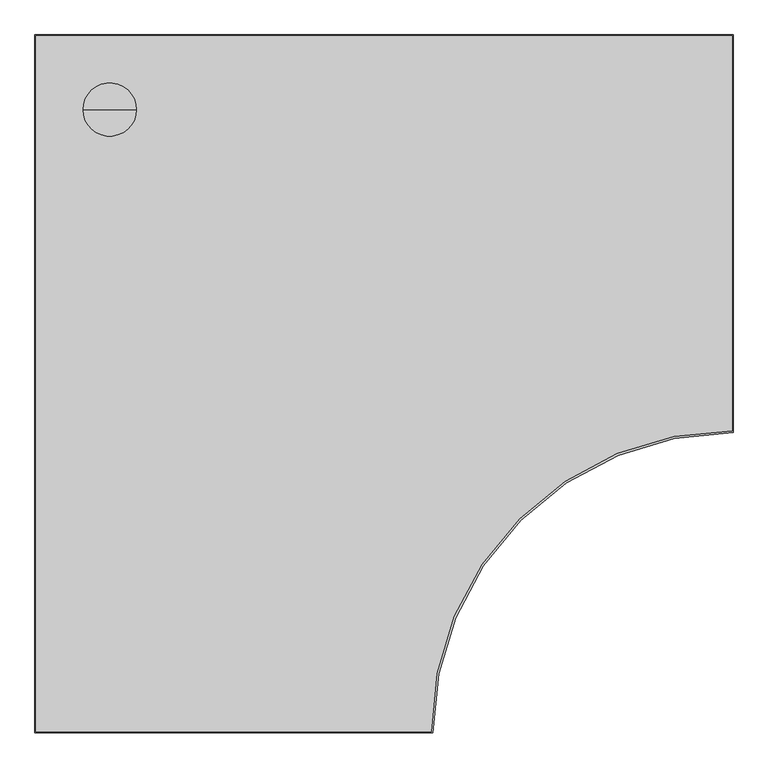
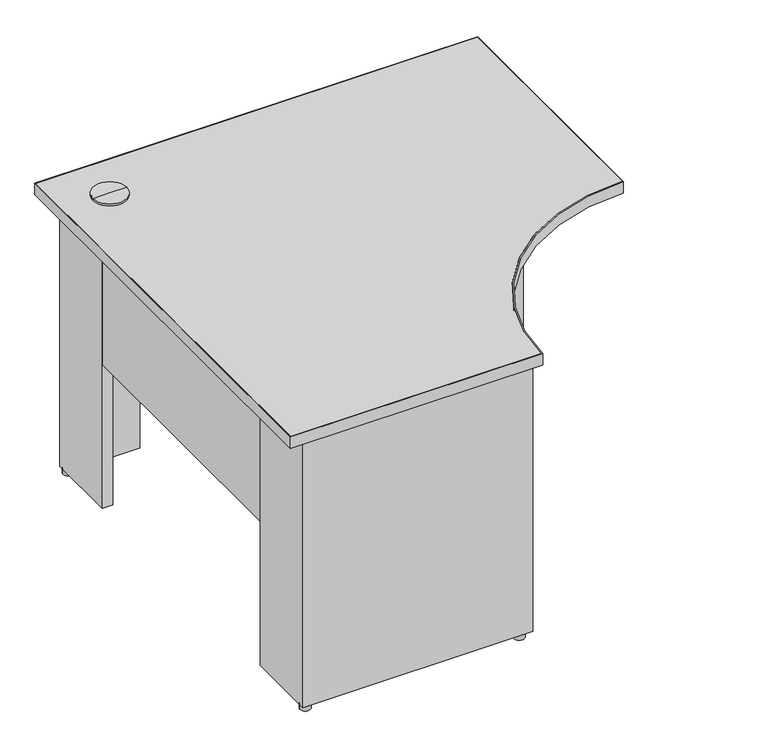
"""IFC4 building model written with IfcOpenShell, lengths in millimetres: furniture geometry, Steelcase - Kick Freestanding - Desk - Curve Corner - Partial Height Modesty Panel : 24D x 42W - Left Full End Panel/Right Clear Access Support - LPL."""

from ifc_helpers import new_model, si_unit, point, frame, frame_2d, origin, origin_with_axes, place, context, project, spatial, polyline, circle_curve, trimmed, segment, composite_curve, outline, extrude, source, transform, mapped, element, save
from ifc_brep_helpers import plane_surface, cylinder_surface, advanced_brep


def furniture_638c623a(model_context):
    return source(origin(), model_context, "Body", "SolidModel", [
        extrude(outline(composite_curve([segment(trimmed(circle_curve(frame_2d((566.7971133, -1039.8759893)), 12.7), [point((554.0971133, -1039.8759893))], [point((579.4971133, -1039.8759893))], False, "CARTESIAN"), True, "CONTINUOUS"), segment(trimmed(circle_curve(frame_2d((566.7971133, -1039.8759893)), 12.7), [point((579.4971133, -1039.8759893))], [point((554.0971133, -1039.8759893))], False, "CARTESIAN"), True, "CONTINUOUS")], self_intersect=False)), origin_with_axes(), (0.0, 0.0, 1.0), 12.446),
        extrude(outline(polyline([(874.0393822, -63.5), (874.0393822, -38.1), (1051.8393579, -38.1), (1051.8393579, -215.8999939), (1025.9313463, -215.8999939), (1025.9313463, -63.5), (874.0393822, -63.5)])), frame((0.0, 0.0, 12.446), z_axis=(0.0, 0.0, 1.0), x_axis=(1.0, 0.0, 0.0)), (0.0, 0.0, 1.0), 682.498),
        extrude(outline(polyline([(215.8999939, -63.5), (63.5, -63.5), (63.5, -215.8999939), (38.1, -215.8999939), (38.1, -38.1), (215.8999939, -38.1), (215.8999939, -63.5)])), frame((0.0, 0.0, 12.446), z_axis=(0.0, 0.0, 1.0), x_axis=(1.0, 0.0, 0.0)), (0.0, 0.0, 1.0), 682.498),
        extrude(outline(polyline([(63.5, -875.0300194), (63.5, -1027.4300194), (161.3662, -1027.4300194), (161.3662, -1047.0895822), (261.0866, -1047.0895822), (261.0866, -1027.4300194), (369.824, -1027.4300194), (369.824, -1047.0895822), (469.5444, -1047.0895822), (469.5444, -1027.4300194), (592.582, -1027.4300194), (592.582, -1052.8299952), (38.1, -1052.8299952), (38.1, -875.0300194), (63.5, -875.0300194)])), frame((0.0, 0.0, 12.446), z_axis=(0.0, 0.0, 1.0), x_axis=(1.0, 0.0, 0.0)), (0.0, 0.0, 1.0), 682.498),
        advanced_brep(
        [(114.3, -114.3, 728.98), (154.94, -114.3, 728.98), (73.66, -114.3, 728.98), (76.1699693, -114.3, 694.944), (152.4300307, -114.3, 694.944), (114.3, -114.3, 694.944), (76.1699693, -114.3, 723.9), (152.4300307, -114.3, 723.9), (73.66, -114.3, 723.9), (154.94, -114.3, 723.9)],
        [
            (0, 1),
            (1, 2, circle_curve(frame((114.3, -114.3, 728.98), z_axis=(0.0, 0.0, 1.0), x_axis=(1.0, 0.0, 0.0)), 40.64)),
            (2, 0),
            (2, 1, circle_curve(frame((114.3, -114.3, 728.98), z_axis=(0.0, 0.0, 1.0), x_axis=(1.0, 0.0, 0.0)), 40.64)),
            (3, 4, circle_curve(frame((114.3, -114.3, 694.944), z_axis=(0.0, 0.0, -1.0), x_axis=(1.0, 0.0, 0.0)), 38.1300307)),
            (4, 5),
            (5, 3),
            (4, 3, circle_curve(frame((114.3, -114.3, 694.944), z_axis=(0.0, 0.0, -1.0), x_axis=(1.0, 0.0, 0.0)), 38.1300307)),
            (6, 7, circle_curve(frame((114.3, -114.3, 723.9), z_axis=(0.0, 0.0, -1.0), x_axis=(1.0, 0.0, 0.0)), 38.1300307)),
            (7, 4),
            (3, 6),
            (7, 6, circle_curve(frame((114.3, -114.3, 723.9), z_axis=(0.0, 0.0, -1.0), x_axis=(1.0, 0.0, 0.0)), 38.1300307)),
            (8, 9, circle_curve(frame((114.3, -114.3, 723.9), z_axis=(0.0, 0.0, -1.0), x_axis=(1.0, 0.0, 0.0)), 40.64)),
            (9, 7),
            (6, 8),
            (9, 8, circle_curve(frame((114.3, -114.3, 723.9), z_axis=(0.0, 0.0, -1.0), x_axis=(1.0, 0.0, 0.0)), 40.64)),
            (1, 9),
            (8, 2),
        ],
        [
            plane_surface(frame((114.3, -114.3, 728.98), z_axis=(0.0, 0.0, 1.0), x_axis=(1.0, 0.0, 0.0))),
            plane_surface(frame((114.3, -114.3, 694.944), z_axis=(0.0, 0.0, -1.0), x_axis=(1.0, 0.0, 0.0))),
            cylinder_surface(frame((114.3, -114.3, 728.98), z_axis=(0.0, 0.0, 1.0), x_axis=(1.0, 0.0, 0.0)), 38.1300307),
            plane_surface(frame((114.3, -114.3, 723.9), z_axis=(0.0, 0.0, -1.0), x_axis=(1.0, 0.0, 0.0))),
            cylinder_surface(frame((114.3, -114.3, 728.98), z_axis=(0.0, 0.0, 1.0), x_axis=(1.0, 0.0, 0.0)), 40.64),
        ],
        [
            (0, [[1, 2, 3]]),
            (0, [[-3, 4, -1]]),
            (1, [[5, 6, 7]]),
            (1, [[8, -7, -6]]),
            (2, [[9, 10, -5, 11]]),
            (2, [[12, -11, -8, -10]]),
            (3, [[13, 14, -9, 15]]),
            (3, [[16, -15, -12, -14]]),
            (4, [[-2, 17, -13, 18]]),
            (4, [[-4, -18, -16, -17]]),
        ],
    ),
        extrude(outline(composite_curve([segment(trimmed(circle_curve(frame_2d((50.8, -50.8)), 12.7), [point((38.1, -50.8))], [point((63.5, -50.8))], False, "CARTESIAN"), True, "CONTINUOUS"), segment(trimmed(circle_curve(frame_2d((50.8, -50.8)), 12.7), [point((63.5, -50.8))], [point((38.1, -50.8))], False, "CARTESIAN"), True, "CONTINUOUS")], self_intersect=False)), origin_with_axes(), (0.0, 0.0, 1.0), 12.446),
        extrude(outline(composite_curve([segment(trimmed(circle_curve(frame_2d((50.8, -1040.1300073)), 12.7484998), [point((38.0515002, -1040.1300073))], [point((63.5484998, -1040.1300073))], False, "CARTESIAN"), True, "CONTINUOUS"), segment(trimmed(circle_curve(frame_2d((50.8, -1040.1300073)), 12.7484998), [point((63.5484998, -1040.1300073))], [point((38.0515002, -1040.1300073))], False, "CARTESIAN"), True, "CONTINUOUS")], self_intersect=False)), origin_with_axes(), (0.0, 0.0, 1.0), 12.446),
        extrude(outline(composite_curve([segment(trimmed(circle_curve(frame_2d((1038.8853521, -50.8)), 12.7), [point((1026.1853521, -50.8))], [point((1051.5853521, -50.8))], False, "CARTESIAN"), True, "CONTINUOUS"), segment(trimmed(circle_curve(frame_2d((1038.8853521, -50.8)), 12.7), [point((1051.5853521, -50.8))], [point((1026.1853521, -50.8))], False, "CARTESIAN"), True, "CONTINUOUS")], self_intersect=False)), origin_with_axes(), (0.0, 0.0, 1.0), 12.446),
        extrude(outline(polyline([(63.5, -215.8999939), (63.5, -875.0300194), (38.1, -875.0300194), (38.1, -215.8999939), (63.5, -215.8999939)])), frame((0.0, 0.0, 379.476), z_axis=(0.0, 0.0, 1.0), x_axis=(1.0, 0.0, 0.0)), (0.0, 0.0, 1.0), 315.468),
        extrude(outline(polyline([(874.0393822, -38.1), (874.0393822, -63.5), (215.8999939, -63.5), (215.8999939, -38.1), (874.0393822, -38.1)])), frame((0.0, 0.0, 379.476), z_axis=(0.0, 0.0, 1.0), x_axis=(1.0, 0.0, 0.0)), (0.0, 0.0, 1.0), 315.468),
        extrude(outline(composite_curve([segment(polyline([(0.9906, -1065.8093628), (0.9906, -0.9906), (1065.8093628, -0.9906), (1065.8093628, -605.3354109)]), True, "CONTINUOUS"), segment(trimmed(circle_curve(frame_2d((1064.5393458, -1064.5393458)), 459.2056912), [point((1065.8093628, -605.3354109))], [point((605.3354109, -1065.8093628))], True, "CARTESIAN"), True, "CONTINUOUS"), segment(polyline([(605.3354109, -1065.8093628), (0.9906, -1065.8093628)]), True, "CONTINUOUS")], self_intersect=False)), frame((0.0, 0.0, 694.944), z_axis=(0.0, 0.0, 1.0), x_axis=(1.0, 0.0, 0.0)), (0.0, 0.0, 1.0), 28.956),
        extrude(outline(composite_curve([segment(polyline([(1066.8, 0.0), (1066.8, -608.332629)]), True, "CONTINUOUS"), segment(trimmed(circle_curve(frame_2d((1065.529983, -1065.529983)), 457.199118), [point((1066.8, -608.332629))], [point((608.332629, -1066.8))], True, "CARTESIAN"), True, "CONTINUOUS"), segment(polyline([(608.332629, -1066.8), (0.0, -1066.8), (0.0, 0.0), (1066.8, 0.0)]), True, "CONTINUOUS")], self_intersect=False), holes=[composite_curve([segment(polyline([(1065.8093628, -0.9906), (0.9906, -0.9906), (0.9906, -1065.8093628), (605.3354109, -1065.8093628)]), True, "CONTINUOUS"), segment(trimmed(circle_curve(frame_2d((1064.5393458, -1064.5393458)), 459.2056912), [point((605.3354109, -1065.8093628))], [point((1065.8093628, -605.3354109))], False, "CARTESIAN"), True, "CONTINUOUS"), segment(polyline([(1065.8093628, -605.3354109), (1065.8093628, -0.9906)]), True, "CONTINUOUS")], self_intersect=False)]), frame((0.0, 0.0, 694.944), z_axis=(0.0, 0.0, 1.0), x_axis=(1.0, 0.0, 0.0)), (0.0, 0.0, 1.0), 28.956),
    ])


if __name__ == "__main__":
    model = new_model("IFC4")
    model_context = context("Model", 3, world=origin())
    ifc_project = project(units=[si_unit("LENGTHUNIT", "METRE", prefix="MILLI")], contexts=[model_context])
    site = spatial("IfcSite", under=ifc_project)
    building = spatial("IfcBuilding", under=site)
    placement = place(None, origin())
    furniture_shape = furniture_638c623a(model_context)
    element("IfcFurniture", 1, ObjectType="Steelcase - Kick Freestanding - Desk - Curve Corner - Partial Height Modesty Panel : 24D x 42W - Left Full End Panel/Right Clear Access Support - LPL", at=placement, inside=building, context=model_context, shape_type="MappedRepresentation", body=[
        mapped(furniture_shape, transform((0.0, 0.0, 0.0), x_axis=(1.0, 0.0, 0.0), y_axis=(0.0, 1.0, 0.0), z_axis=(0.0, 0.0, 1.0))),
    ])
    save(model, "model.ifc")
